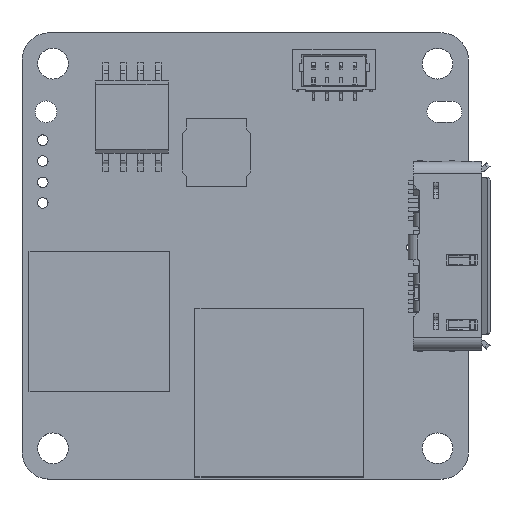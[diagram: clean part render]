
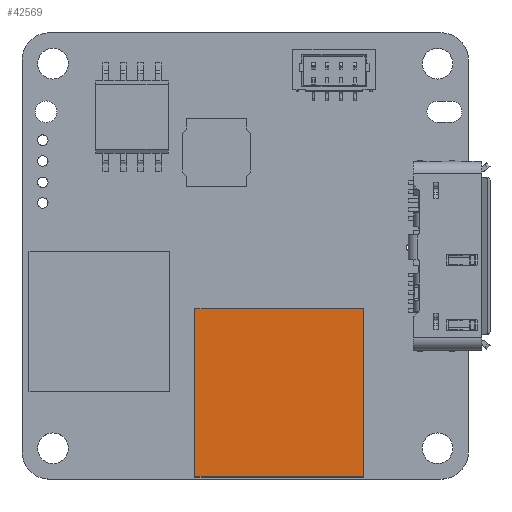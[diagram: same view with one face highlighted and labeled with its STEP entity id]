
A CAD part, top view. The second image highlights one B-rep face of the part: STEP entity #42569.
In plain terms, the highlighted planar face has unit normal (0, 0, 1).
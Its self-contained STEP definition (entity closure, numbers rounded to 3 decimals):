
#16319=DIRECTION('',(0.,1.,0.));
#16320=VECTOR('',#16319,12.254);
#16321=CARTESIAN_POINT('',(-3.656,-16.091,2.591));
#16322=LINE('',#16321,#16320);
#16323=DIRECTION('',(1.,0.,0.));
#16324=VECTOR('',#16323,12.254);
#16325=CARTESIAN_POINT('',(-3.656,-3.837,2.591));
#16326=LINE('',#16325,#16324);
#16327=DIRECTION('',(0.,-1.,0.));
#16328=VECTOR('',#16327,12.254);
#16329=CARTESIAN_POINT('',(8.598,-3.837,2.591));
#16330=LINE('',#16329,#16328);
#16331=DIRECTION('',(-1.,0.,0.));
#16332=VECTOR('',#16331,12.254);
#16333=CARTESIAN_POINT('',(8.598,-16.091,2.591));
#16334=LINE('',#16333,#16332);
#21158=CARTESIAN_POINT('',(-3.656,-3.837,2.591));
#21159=VERTEX_POINT('',#21158);
#21160=CARTESIAN_POINT('',(-3.656,-16.091,2.591));
#21161=VERTEX_POINT('',#21160);
#21164=CARTESIAN_POINT('',(8.598,-3.837,2.591));
#21165=VERTEX_POINT('',#21164);
#21168=CARTESIAN_POINT('',(8.598,-16.091,2.591));
#21169=VERTEX_POINT('',#21168);
#42558=CARTESIAN_POINT('',(2.471,-9.964,2.591));
#42559=DIRECTION('',(0.,0.,1.));
#42560=DIRECTION('',(0.,-1.,0.));
#42561=AXIS2_PLACEMENT_3D('',#42558,#42559,#42560);
#42562=PLANE('',#42561);
#42563=ORIENTED_EDGE('',*,*,#42510,.T.);
#42564=ORIENTED_EDGE('',*,*,#42525,.T.);
#42565=ORIENTED_EDGE('',*,*,#42539,.T.);
#42566=ORIENTED_EDGE('',*,*,#42552,.T.);
#42567=EDGE_LOOP('',(#42563,#42564,#42565,#42566));
#42568=FACE_OUTER_BOUND('',#42567,.F.);
#42569=ADVANCED_FACE('',(#42568),#42562,.T.);
#42510=EDGE_CURVE('',#21161,#21159,#16322,.T.);
#42525=EDGE_CURVE('',#21159,#21165,#16326,.T.);
#42539=EDGE_CURVE('',#21165,#21169,#16330,.T.);
#42552=EDGE_CURVE('',#21169,#21161,#16334,.T.);
